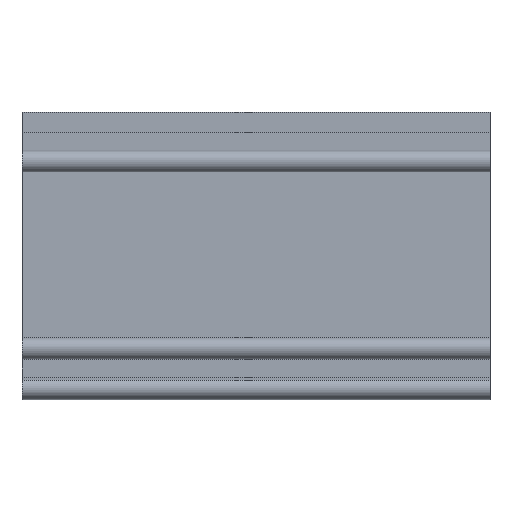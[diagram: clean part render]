
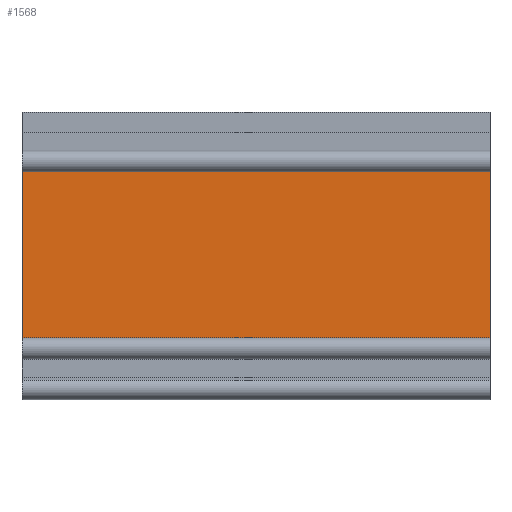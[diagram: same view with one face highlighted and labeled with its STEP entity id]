
A CAD part, top view. The second image highlights one B-rep face of the part: STEP entity #1568.
In plain terms, the highlighted planar face has unit normal (0, 0, 1).
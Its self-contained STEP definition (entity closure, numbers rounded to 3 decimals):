
#75=LINE('',#2359,#262);
#76=LINE('',#2362,#263);
#77=LINE('',#2364,#264);
#78=LINE('',#2365,#265);
#262=VECTOR('',#1898,10.);
#263=VECTOR('',#1901,10.);
#264=VECTOR('',#1902,10.);
#265=VECTOR('',#1903,10.);
#437=PLANE('',#1684);
#508=FACE_OUTER_BOUND('',#590,.T.);
#590=EDGE_LOOP('',(#1178,#1179,#1180,#1181));
#748=VERTEX_POINT('',#2355);
#749=VERTEX_POINT('',#2357);
#750=VERTEX_POINT('',#2361);
#751=VERTEX_POINT('',#2363);
#923=EDGE_CURVE('',#748,#749,#75,.T.);
#924=EDGE_CURVE('',#748,#750,#76,.T.);
#925=EDGE_CURVE('',#751,#749,#77,.T.);
#926=EDGE_CURVE('',#750,#751,#78,.T.);
#1178=ORIENTED_EDGE('',*,*,#924,.F.);
#1179=ORIENTED_EDGE('',*,*,#923,.T.);
#1180=ORIENTED_EDGE('',*,*,#925,.F.);
#1181=ORIENTED_EDGE('',*,*,#926,.F.);
#1568=ADVANCED_FACE('',(#508),#437,.T.);
#1684=AXIS2_PLACEMENT_3D('',#2360,#1899,#1900);
#1898=DIRECTION('',(1.,0.,0.));
#1899=DIRECTION('center_axis',(0.,0.,1.));
#1900=DIRECTION('ref_axis',(0.,-1.,0.));
#1901=DIRECTION('',(0.,1.,0.));
#1902=DIRECTION('',(0.,-1.,0.));
#1903=DIRECTION('',(1.,0.,0.));
#2355=CARTESIAN_POINT('',(0.,168.25,37.5));
#2357=CARTESIAN_POINT('',(90.,168.25,37.5));
#2359=CARTESIAN_POINT('',(0.,168.25,37.5));
#2360=CARTESIAN_POINT('Origin',(0.,201.75,37.5));
#2361=CARTESIAN_POINT('',(0.,201.75,37.5));
#2362=CARTESIAN_POINT('',(0.,168.25,37.5));
#2363=CARTESIAN_POINT('',(90.,201.75,37.5));
#2364=CARTESIAN_POINT('',(90.,168.25,37.5));
#2365=CARTESIAN_POINT('',(0.,201.75,37.5));
